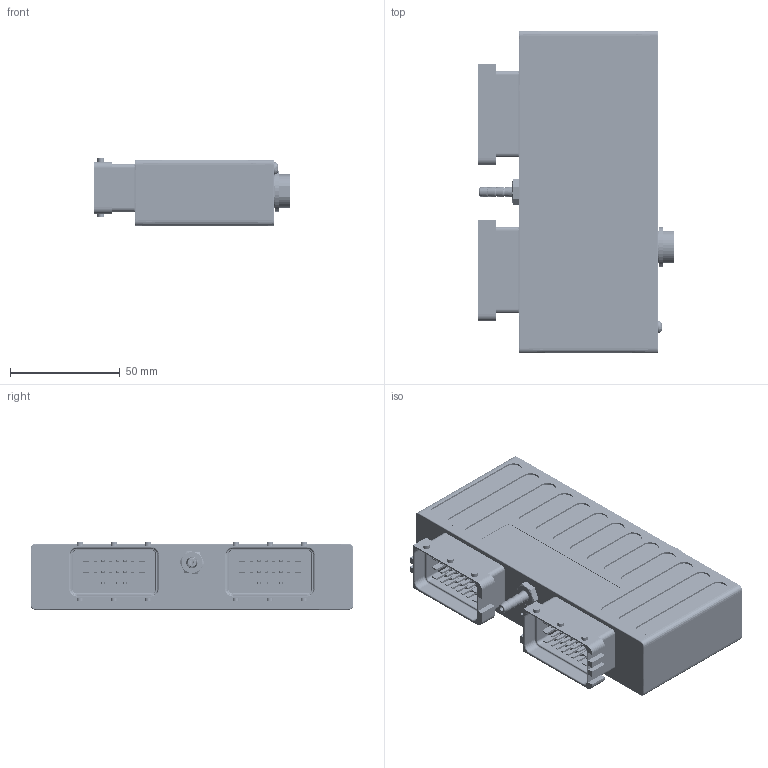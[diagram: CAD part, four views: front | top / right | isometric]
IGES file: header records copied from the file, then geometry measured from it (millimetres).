
Start section: SolidWorks IGES file using analytic representation for surfaces
Global section: file name: C:\Users\asus\Dropbox\CAD\EMU Classic\EMU Classic.IGS; native system: SolidWorks 2017; preprocessor: SolidWorks 2017; author: asus; date: 190308.100103; units: millimetre
Bounding box: 89.14 x 147 x 30.8 mm (x, y, z)
Surface area: 118772.9 mm2 (no closed solid volume)
Topology: 0 solids, 0 shells, 3860 faces, 33257 edges, 33221 vertices
Faces by surface type: bspline 2676, revolution 1184
